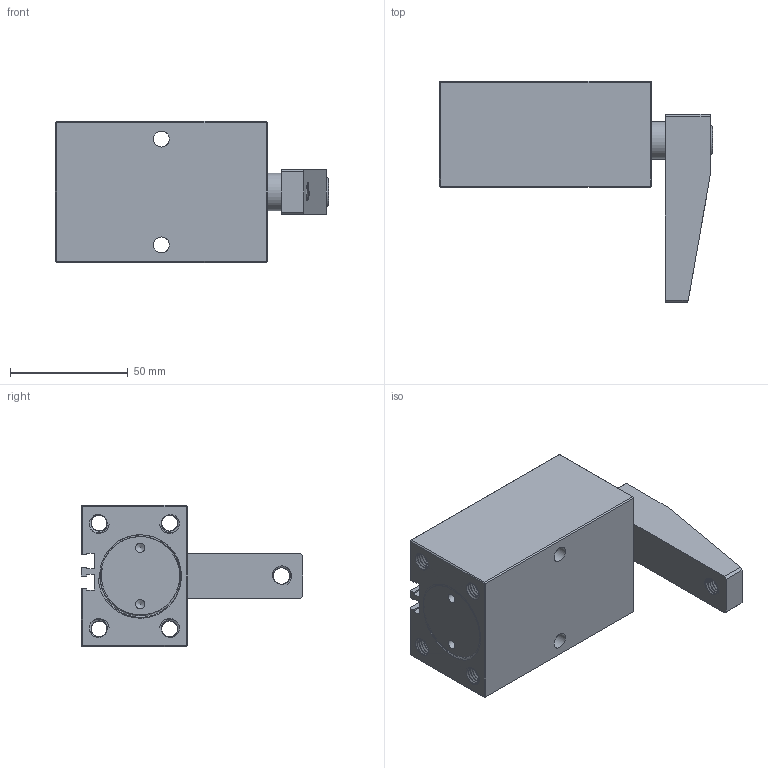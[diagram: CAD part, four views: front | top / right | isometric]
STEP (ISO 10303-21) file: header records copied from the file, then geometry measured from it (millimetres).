
FILE_DESCRIPTION(/* description */ (''),/* implementation_level */ '2;1');
FILE_NAME(/* name */ 'E:\SERWER_ZAPAS\Pneumatic\PSB PNEUMATIC SWING\PSB-32\PSB-32L_ZAMKNIETY.stp',/* time_stamp */ '2019-02-05T12:18:30+01:00',/* author */ ('Admin'),/* organization */ (''),/* preprocessor_version */ 'ST-DEVELOPER v17.2',/* originating_system */ 'Autodesk Inventor 2019',/* authorisation */ '');
FILE_SCHEMA (('AUTOMOTIVE_DESIGN { 1 0 10303 214 3 1 1 }'));
Products named in the file (6): PSB-32L_ZAMKNIETY; PSB-32BT; PSB-32HSG; PSB-32HG; PSB-32YB; M8X20
Assembly tree (5 placements, depth 2):
  PSB-32L_ZAMKNIETY
    PSB-32BT
    PSB-32HSG
    PSB-32HG
    PSB-32YB
    M8X20
Bounding box: 116 x 94 x 60 mm (x, y, z)
Volume: 222260.1 mm3; surface area: 69705.3 mm2
Topology: 5 solids, 5 shells, 385 faces, 1120 edges, 755 vertices
Faces by surface type: cylinder 187, bspline 94, plane 86, cone 9, torus 9
Full cylindrical faces by diameter (mm): 1 x2, 4 x2, 6.8 x86, 7 x22, 8 x15, 8.2 x13, 9 x1, 11 x4, 13 x1, 14 x1, 16 x2, 29 x1, 32 x4, 33.5 x7, 35 x10, 36 x1
Entity records: 51057 total; most frequent: CARTESIAN_POINT 41720, ORIENTED_EDGE 2234, DIRECTION 1372, EDGE_CURVE 1117, VERTEX_POINT 755, B_SPLINE_CURVE_WITH_KNOTS 524, AXIS2_PLACEMENT_3D 476, EDGE_LOOP 426
